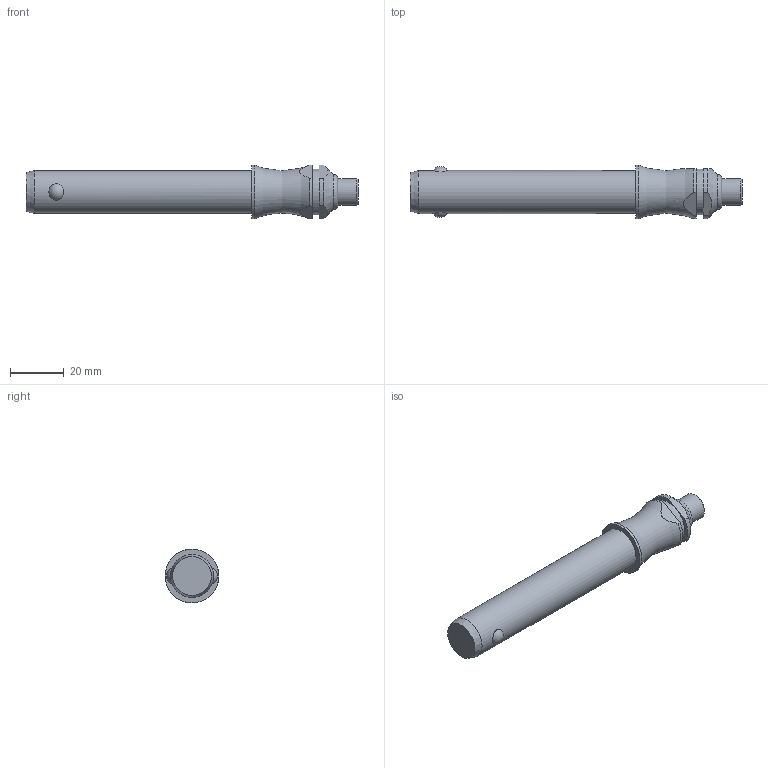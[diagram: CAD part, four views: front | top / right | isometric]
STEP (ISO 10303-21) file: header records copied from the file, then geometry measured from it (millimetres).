
FILE_DESCRIPTION( ( 'STEP AP203' ), '1' );
FILE_NAME( 'C:/Temp/Ganter_Step_05_03_2020/data/3_1/gn113_3/Stainless Steel-Ball lock pin GN 113.3-16-70 (deactivated).stp', '2020-03-12T08:18:55', ( 'License CC BY-ND 4.0' ), ( 'CADENAS' ), ' ', 'PARTsolutions', ' ' );
FILE_SCHEMA( ( 'CONFIG_CONTROL_DESIGN' ) );
Length unit declared in the file: millimetre
Products named in the file (1): _Stainless Steel-Ball lock pin GN 113.3-16-70 (deactivated)
Bounding box: 123.5 x 20 x 20 mm (x, y, z)
Volume: 24838.4 mm3; surface area: 6782.4 mm2
Topology: 1 solids, 1 shells, 28 faces, 60 edges, 39 vertices
Faces by surface type: plane 11, cylinder 10, cone 3, torus 2, sphere 2
Full cylindrical faces by diameter (mm): 10 x1, 16 x1, 17 x1, 20 x1
Entity records: 966 total; most frequent: CARTESIAN_POINT 350, DIRECTION 122, ORIENTED_EDGE 98, AXIS2_PLACEMENT_3D 52, EDGE_CURVE 49, EDGE_LOOP 42, VERTEX_POINT 38, FACE_OUTER_BOUND 34
